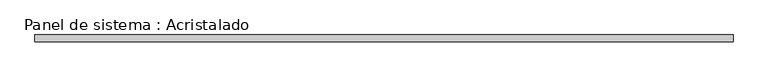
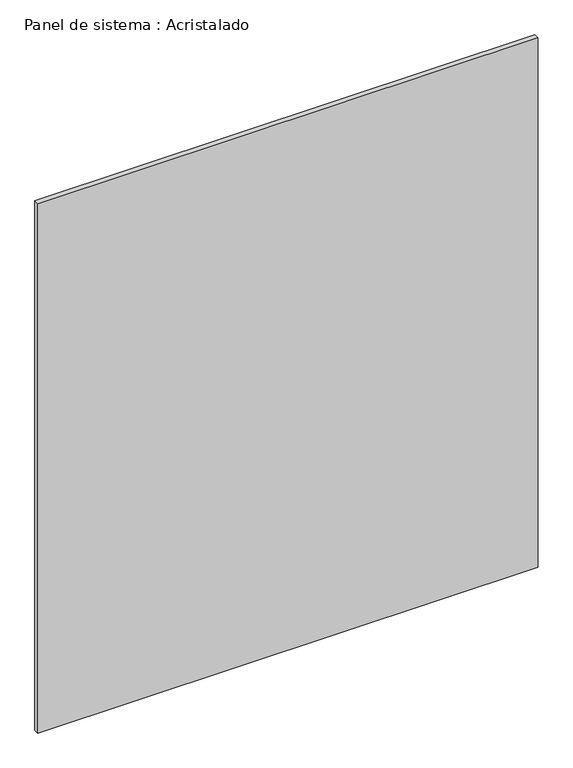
"""IFC4 building model written with IfcOpenShell, lengths in millimetres: plate geometry, Panel de sistema : Acristalado."""

from ifc_helpers import new_model, si_unit, origin, origin_with_axes, place, context, project, spatial, polyline, outline, extrude, source, transform, mapped, element, save


def panel_de_sistema_acristalado_cea189d9(model_context):
    return source(origin(), model_context, "Body", "SweptSolid", [
        extrude(outline(polyline([(1012.5, -10.0), (-1012.5, -10.0), (-1012.5, 10.0), (1012.5, 10.0), (1012.5, -10.0)])), origin_with_axes(), (0.0, 0.0, 1.0), 2265.0),
    ])


if __name__ == "__main__":
    model = new_model("IFC4")
    model_context = context("Model", 3, world=origin())
    ifc_project = project(units=[si_unit("LENGTHUNIT", "METRE", prefix="MILLI")], contexts=[model_context])
    site = spatial("IfcSite", under=ifc_project)
    building = spatial("IfcBuilding", under=site)
    placement = place(None, origin())
    panel_de_sistema_acristalado_shape = panel_de_sistema_acristalado_cea189d9(model_context)
    element("IfcPlate", 1, ObjectType="Panel de sistema : Acristalado", at=placement, inside=building, context=model_context, shape_type="MappedRepresentation", body=[
        mapped(panel_de_sistema_acristalado_shape, transform((0.0, 0.0, 0.0), x_axis=(1.0, 0.0, 0.0), y_axis=(0.0, 1.0, 0.0), z_axis=(0.0, 0.0, 1.0))),
    ])
    save(model, "model.ifc")
